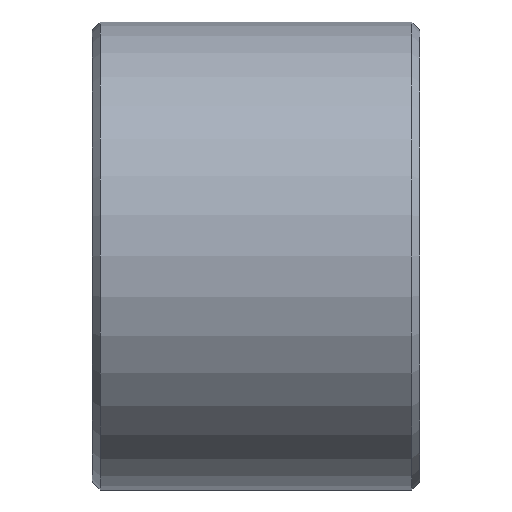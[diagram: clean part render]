
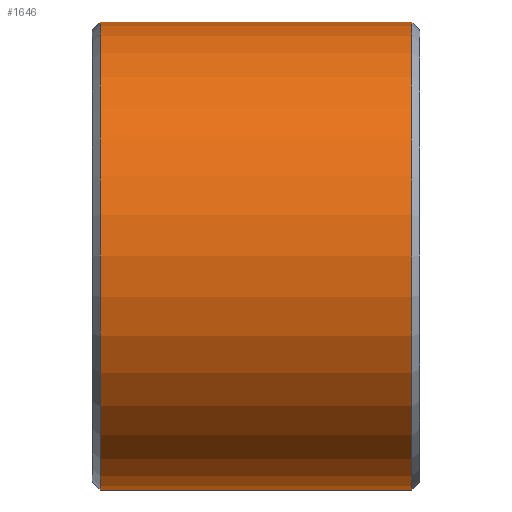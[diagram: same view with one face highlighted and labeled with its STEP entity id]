
A CAD part, front view. The second image highlights one B-rep face of the part: STEP entity #1646.
In plain terms, the highlighted cylindrical face has radius 15 mm (diameter 30 mm), a partial arc.
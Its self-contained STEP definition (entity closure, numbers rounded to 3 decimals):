
#92=DIRECTION('',(1.,0.,0.));
#93=VECTOR('',#92,20.);
#94=CARTESIAN_POINT('',(-10.,0.,-15.));
#95=LINE('',#94,#93);
#145=CARTESIAN_POINT('',(10.,0.,0.));
#146=DIRECTION('',(1.,0.,0.));
#147=DIRECTION('',(0.,0.,1.));
#148=AXIS2_PLACEMENT_3D('',#145,#146,#147);
#150=CARTESIAN_POINT('',(-10.,0.,0.));
#151=DIRECTION('',(-1.,0.,0.));
#152=DIRECTION('',(0.,0.,-1.));
#153=AXIS2_PLACEMENT_3D('',#150,#151,#152);
#155=DIRECTION('',(1.,0.,0.));
#156=VECTOR('',#155,20.);
#157=CARTESIAN_POINT('',(-10.,0.,
15.));
#158=LINE('',#157,#156);
#1505=CARTESIAN_POINT('',(10.,0.,15.));
#1506=CARTESIAN_POINT('',(10.,0.,-15.));
#1507=VERTEX_POINT('',#1505);
#1508=VERTEX_POINT('',#1506);
#1513=CARTESIAN_POINT('',(-10.,0.,-15.));
#1514=CARTESIAN_POINT('',(-10.,0.,15.));
#1515=VERTEX_POINT('',#1513);
#1516=VERTEX_POINT('',#1514);
#1635=CARTESIAN_POINT('',(-10.5,0.,0.));
#1636=DIRECTION('',(1.,0.,0.));
#1637=DIRECTION('',(0.,0.,-1.));
#1638=AXIS2_PLACEMENT_3D('',#1635,#1636,#1637);
#1639=CYLINDRICAL_SURFACE('',#1638,15.);
#1640=ORIENTED_EDGE('',*,*,#1629,.T.);
#1641=ORIENTED_EDGE('',*,*,#1579,.F.);
#1642=ORIENTED_EDGE('',*,*,#1549,.T.);
#1643=ORIENTED_EDGE('',*,*,#1576,.T.);
#1644=EDGE_LOOP('',(#1640,#1641,#1642,#1643));
#1645=FACE_OUTER_BOUND('',#1644,.F.);
#1646=ADVANCED_FACE('',(#1645),#1639,.T.);
#149=CIRCLE('',#148,15.);
#154=CIRCLE('',#153,15.);
#1549=EDGE_CURVE('',#1515,#1516,#154,.T.);
#1576=EDGE_CURVE('',#1516,#1507,#158,.T.);
#1579=EDGE_CURVE('',#1515,#1508,#95,.T.);
#1629=EDGE_CURVE('',#1507,#1508,#149,.T.);
